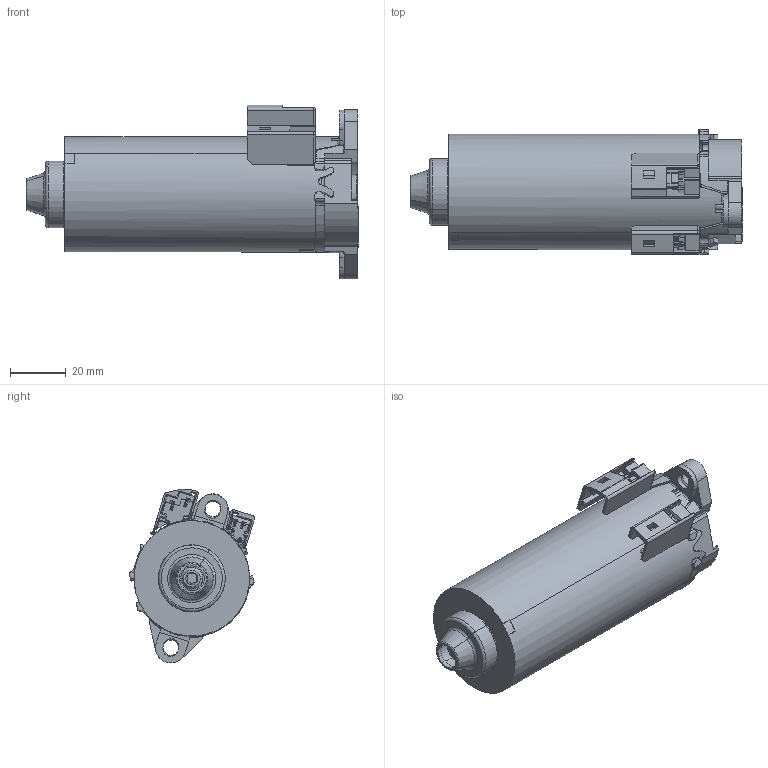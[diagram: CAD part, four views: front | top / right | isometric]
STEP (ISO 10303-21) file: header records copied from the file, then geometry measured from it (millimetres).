
FILE_DESCRIPTION(/* description */ (''),/* implementation_level */ '2;1');
FILE_NAME(/* name */ '130002634.stp',/* time_stamp */ '2013-02-01T16:49:22+05:00',/* author */ (''),/* organization */ (''),/* preprocessor_version */ 'ST-DEVELOPER v11',/* originating_system */ 'SIEMENS PLM Software NX 7.5',/* authorisation */ '');
FILE_SCHEMA (('AUTOMOTIVE_DESIGN { 1 0 10303 214 1 1 1 1 }'));
Length unit declared in the file: millimetre
Products named in the file (1): 0130002632_stp
Bounding box: 119.5 x 44.97 x 62.62 mm (x, y, z)
Volume: 139506.7 mm3; surface area: 27482.3 mm2
Topology: 1 solids, 3 shells, 1208 faces, 3429 edges, 2188 vertices
Faces by surface type: plane 585, cylinder 382, torus 79, cone 76, bspline 70, sphere 13, extrusion 3
Entity records: 44341 total; most frequent: CARTESIAN_POINT 13393, ORIENTED_EDGE 6842, DIRECTION 6166, EDGE_CURVE 3421, VERTEX_POINT 2188, AXIS2_PLACEMENT_3D 2174, VECTOR 1818, LINE 1815
